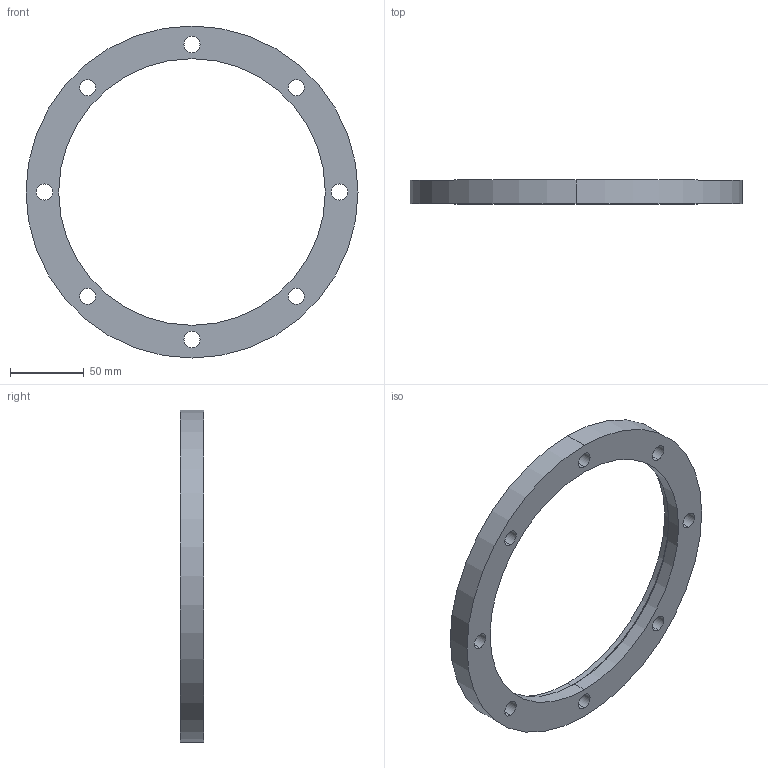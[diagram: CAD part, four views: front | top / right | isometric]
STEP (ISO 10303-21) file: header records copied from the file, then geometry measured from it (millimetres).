
FILE_DESCRIPTION (( 'STEP AP214' ), '1' );
FILE_NAME ('W5UEF160.STEP', '2021-01-25T16:36:01', ( '' ), ( '' ), 'SwSTEP 2.0', 'SolidWorks 2020', '' );
FILE_SCHEMA (( 'AUTOMOTIVE_DESIGN' ));
Length unit declared in the file: millimetre
Products named in the file (1): W5UEF160
Bounding box: 225 x 16 x 225 mm (x, y, z)
Volume: 204163 mm3; surface area: 51008.5 mm2
Topology: 1 solids, 1 shells, 27 faces, 70 edges, 46 vertices
Faces by surface type: cylinder 22, plane 3, torus 2
Entity records: 926 total; most frequent: DIRECTION 174, CARTESIAN_POINT 144, ORIENTED_EDGE 140, AXIS2_PLACEMENT_3D 76, EDGE_CURVE 70, CIRCLE 48, VERTEX_POINT 46, EDGE_LOOP 46
